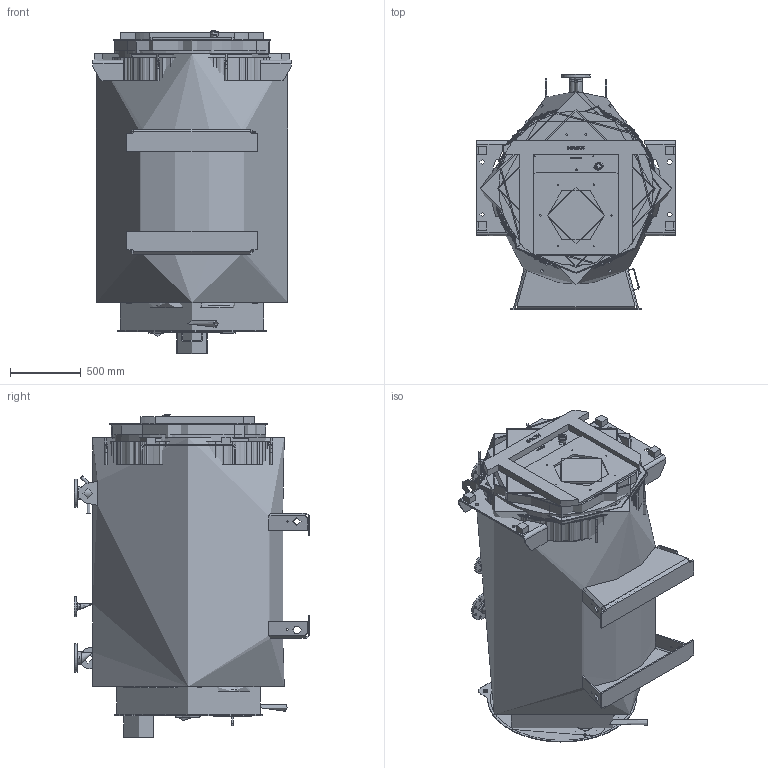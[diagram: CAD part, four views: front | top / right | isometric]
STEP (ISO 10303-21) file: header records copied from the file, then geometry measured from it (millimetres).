
FILE_DESCRIPTION(('TFLEX Exchange Step'),'2;1');
FILE_NAME('M22A001_7951179_H002.stp', '2024-07-31T14:22:58+03:00',('kort'),('Unknown organisation'),'TFLEX Exchange 2024.2','T-FLEX CAD','Unknown authorisation');
FILE_SCHEMA( ('AUTOMOTIVE_DESIGN { 1 0 10303 214 1 1 1 1 }') );
Length unit declared in the file: millimetre
Products named in the file (1): Nodes
Bounding box: 1400 x 1660 x 2277.98 mm (x, y, z)
Topology: 157 solids, 158 shells, 1792 faces, 4109 edges, 2806 vertices
Faces by surface type: plane 890, cylinder 645, bspline 121, cone 86, torus 44, sphere 6
Full cylindrical faces by diameter (mm): 1 x16, 2.2 x4, 3.2 x4, 3.3 x4, 4 x6, 6.5 x4, 10 x15, 10.11 x6, 10.86 x15, 11.45 x1, 12 x42, 13 x4, 14 x64, 14.63 x6, 15.5 x15, 16 x4, 18 x20, 18.63 x1, 18.9 x1, 22 x6, 24 x4, 26.9 x2, 28.9 x1, 34.4 x1, 35 x7, 37.2 x1, 40 x4, 41.1 x1, 41.45 x1, 42.4 x1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
Entity records: 66456 total; most frequent: CARTESIAN_POINT 24119, DIRECTION 8873, ORIENTED_EDGE 8172, EDGE_CURVE 4086, AXIS2_PLACEMENT_3D 3491, VERTEX_POINT 2805, EDGE_LOOP 2225, FACE_BOUND 2225
